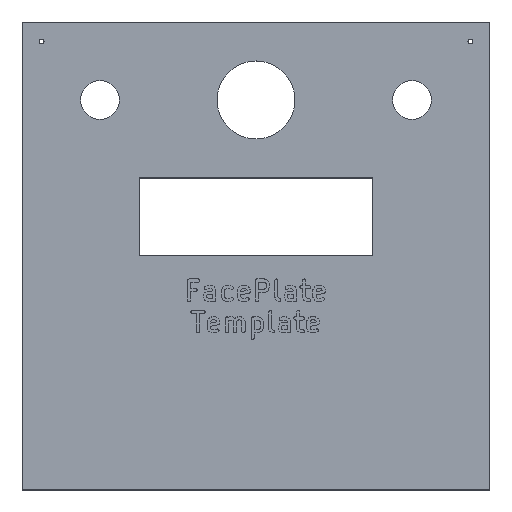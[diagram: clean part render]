
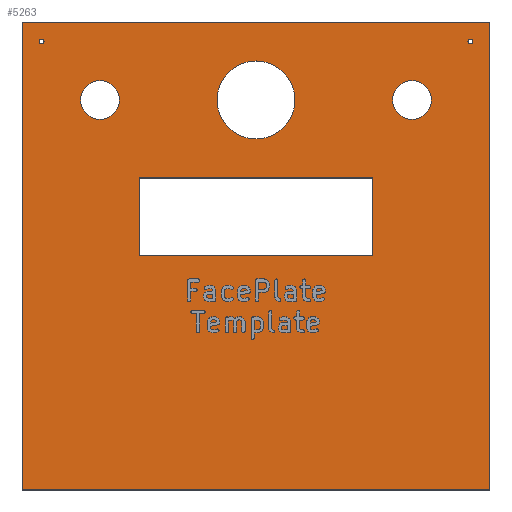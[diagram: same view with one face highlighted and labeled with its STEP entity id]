
A CAD part, top view. The second image highlights one B-rep face of the part: STEP entity #5263.
In plain terms, the highlighted planar face has unit normal (0, 0, 1).
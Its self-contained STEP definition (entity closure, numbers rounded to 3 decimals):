
#5062 = VERTEX_POINT('',#5063);
#5063 = CARTESIAN_POINT('',(76.2,-76.2,1.51));
#5069 = EDGE_CURVE('',#5062,#5070,#5072,.T.);
#5070 = VERTEX_POINT('',#5071);
#5071 = CARTESIAN_POINT('',(0.,-76.2,1.51));
#5072 = LINE('',#5073,#5074);
#5073 = CARTESIAN_POINT('',(76.2,-76.2,1.51));
#5074 = VECTOR('',#5075,1.);
#5075 = DIRECTION('',(-1.,0.,0.));
#5102 = VERTEX_POINT('',#5103);
#5103 = CARTESIAN_POINT('',(76.2,0.,1.51));
#5109 = EDGE_CURVE('',#5102,#5062,#5110,.T.);
#5110 = LINE('',#5111,#5112);
#5111 = CARTESIAN_POINT('',(76.2,0.,1.51));
#5112 = VECTOR('',#5113,1.);
#5113 = DIRECTION('',(0.,-1.,0.));
#5131 = EDGE_CURVE('',#5070,#5132,#5134,.T.);
#5132 = VERTEX_POINT('',#5133);
#5133 = CARTESIAN_POINT('',(0.,0.,1.51));
#5134 = LINE('',#5135,#5136);
#5135 = CARTESIAN_POINT('',(0.,-76.2,1.51));
#5136 = VECTOR('',#5137,1.);
#5137 = DIRECTION('',(0.,1.,0.));
#5263 = ADVANCED_FACE('',(#5264,#5275,#5309,#5320,#5331,#5342,#5353),
  #5364,.T.);
#5264 = FACE_BOUND('',#5265,.T.);
#5265 = EDGE_LOOP('',(#5266,#5267,#5268,#5274));
#5266 = ORIENTED_EDGE('',*,*,#5069,.F.);
#5267 = ORIENTED_EDGE('',*,*,#5109,.F.);
#5268 = ORIENTED_EDGE('',*,*,#5269,.F.);
#5269 = EDGE_CURVE('',#5132,#5102,#5270,.T.);
#5270 = LINE('',#5271,#5272);
#5271 = CARTESIAN_POINT('',(0.,0.,1.51));
#5272 = VECTOR('',#5273,1.);
#5273 = DIRECTION('',(1.,0.,0.));
#5274 = ORIENTED_EDGE('',*,*,#5131,.F.);
#5275 = FACE_BOUND('',#5276,.T.);
#5276 = EDGE_LOOP('',(#5277,#5287,#5295,#5303));
#5277 = ORIENTED_EDGE('',*,*,#5278,.F.);
#5278 = EDGE_CURVE('',#5279,#5281,#5283,.T.);
#5279 = VERTEX_POINT('',#5280);
#5280 = CARTESIAN_POINT('',(19.05,-38.1,1.51));
#5281 = VERTEX_POINT('',#5282);
#5282 = CARTESIAN_POINT('',(57.15,-38.1,1.51));
#5283 = LINE('',#5284,#5285);
#5284 = CARTESIAN_POINT('',(19.05,-38.1,1.51));
#5285 = VECTOR('',#5286,1.);
#5286 = DIRECTION('',(1.,0.,0.));
#5287 = ORIENTED_EDGE('',*,*,#5288,.F.);
#5288 = EDGE_CURVE('',#5289,#5279,#5291,.T.);
#5289 = VERTEX_POINT('',#5290);
#5290 = CARTESIAN_POINT('',(19.05,-25.4,1.51));
#5291 = LINE('',#5292,#5293);
#5292 = CARTESIAN_POINT('',(19.05,-25.4,1.51));
#5293 = VECTOR('',#5294,1.);
#5294 = DIRECTION('',(0.,-1.,0.));
#5295 = ORIENTED_EDGE('',*,*,#5296,.F.);
#5296 = EDGE_CURVE('',#5297,#5289,#5299,.T.);
#5297 = VERTEX_POINT('',#5298);
#5298 = CARTESIAN_POINT('',(57.15,-25.4,1.51));
#5299 = LINE('',#5300,#5301);
#5300 = CARTESIAN_POINT('',(57.15,-25.4,1.51));
#5301 = VECTOR('',#5302,1.);
#5302 = DIRECTION('',(-1.,0.,0.));
#5303 = ORIENTED_EDGE('',*,*,#5304,.F.);
#5304 = EDGE_CURVE('',#5281,#5297,#5305,.T.);
#5305 = LINE('',#5306,#5307);
#5306 = CARTESIAN_POINT('',(57.15,-38.1,1.51));
#5307 = VECTOR('',#5308,1.);
#5308 = DIRECTION('',(0.,1.,0.));
#5309 = FACE_BOUND('',#5310,.T.);
#5310 = EDGE_LOOP('',(#5311));
#5311 = ORIENTED_EDGE('',*,*,#5312,.F.);
#5312 = EDGE_CURVE('',#5313,#5313,#5315,.T.);
#5313 = VERTEX_POINT('',#5314);
#5314 = CARTESIAN_POINT('',(15.875,-12.7,1.51));
#5315 = CIRCLE('',#5316,3.175);
#5316 = AXIS2_PLACEMENT_3D('',#5317,#5318,#5319);
#5317 = CARTESIAN_POINT('',(12.7,-12.7,1.51));
#5318 = DIRECTION('',(0.,0.,1.));
#5319 = DIRECTION('',(1.,0.,-0.));
#5320 = FACE_BOUND('',#5321,.T.);
#5321 = EDGE_LOOP('',(#5322));
#5322 = ORIENTED_EDGE('',*,*,#5323,.T.);
#5323 = EDGE_CURVE('',#5324,#5324,#5326,.T.);
#5324 = VERTEX_POINT('',#5325);
#5325 = CARTESIAN_POINT('',(3.175,-3.581,1.51));
#5326 = CIRCLE('',#5327,0.406);
#5327 = AXIS2_PLACEMENT_3D('',#5328,#5329,#5330);
#5328 = CARTESIAN_POINT('',(3.175,-3.175,1.51));
#5329 = DIRECTION('',(-0.,0.,-1.));
#5330 = DIRECTION('',(-0.,-1.,0.));
#5331 = FACE_BOUND('',#5332,.T.);
#5332 = EDGE_LOOP('',(#5333));
#5333 = ORIENTED_EDGE('',*,*,#5334,.F.);
#5334 = EDGE_CURVE('',#5335,#5335,#5337,.T.);
#5335 = VERTEX_POINT('',#5336);
#5336 = CARTESIAN_POINT('',(44.45,-12.7,1.51));
#5337 = CIRCLE('',#5338,6.35);
#5338 = AXIS2_PLACEMENT_3D('',#5339,#5340,#5341);
#5339 = CARTESIAN_POINT('',(38.1,-12.7,1.51));
#5340 = DIRECTION('',(0.,0.,1.));
#5341 = DIRECTION('',(1.,0.,-0.));
#5342 = FACE_BOUND('',#5343,.T.);
#5343 = EDGE_LOOP('',(#5344));
#5344 = ORIENTED_EDGE('',*,*,#5345,.F.);
#5345 = EDGE_CURVE('',#5346,#5346,#5348,.T.);
#5346 = VERTEX_POINT('',#5347);
#5347 = CARTESIAN_POINT('',(66.675,-12.7,1.51));
#5348 = CIRCLE('',#5349,3.175);
#5349 = AXIS2_PLACEMENT_3D('',#5350,#5351,#5352);
#5350 = CARTESIAN_POINT('',(63.5,-12.7,1.51));
#5351 = DIRECTION('',(0.,0.,1.));
#5352 = DIRECTION('',(1.,0.,-0.));
#5353 = FACE_BOUND('',#5354,.T.);
#5354 = EDGE_LOOP('',(#5355));
#5355 = ORIENTED_EDGE('',*,*,#5356,.T.);
#5356 = EDGE_CURVE('',#5357,#5357,#5359,.T.);
#5357 = VERTEX_POINT('',#5358);
#5358 = CARTESIAN_POINT('',(73.025,-3.581,1.51));
#5359 = CIRCLE('',#5360,0.406);
#5360 = AXIS2_PLACEMENT_3D('',#5361,#5362,#5363);
#5361 = CARTESIAN_POINT('',(73.025,-3.175,1.51));
#5362 = DIRECTION('',(-0.,0.,-1.));
#5363 = DIRECTION('',(-0.,-1.,0.));
#5364 = PLANE('',#5365);
#5365 = AXIS2_PLACEMENT_3D('',#5366,#5367,#5368);
#5366 = CARTESIAN_POINT('',(0.,0.,1.51));
#5367 = DIRECTION('',(0.,0.,1.));
#5368 = DIRECTION('',(1.,0.,-0.));
